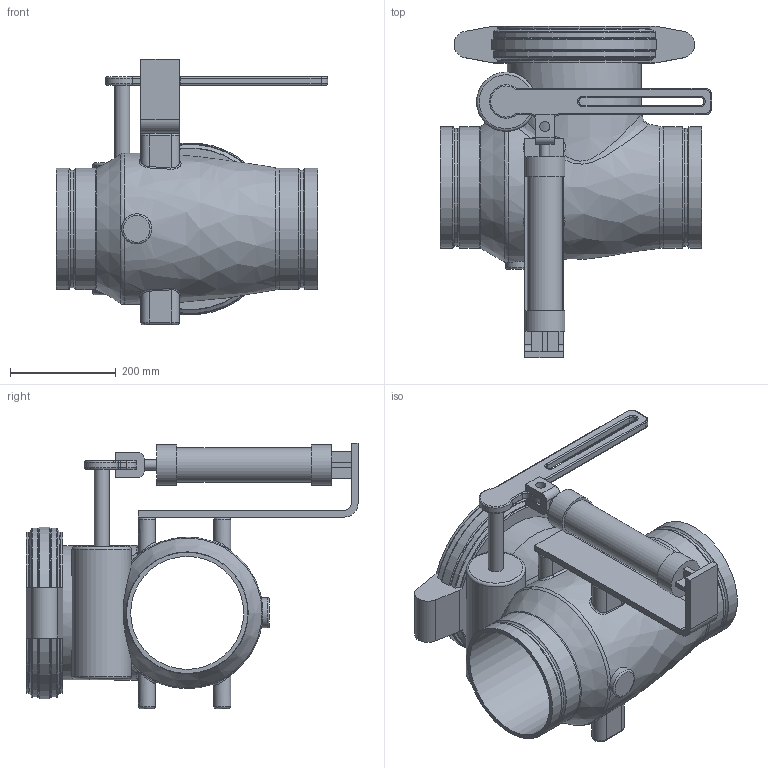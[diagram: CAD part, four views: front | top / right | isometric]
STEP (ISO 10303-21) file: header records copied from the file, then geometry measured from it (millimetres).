
FILE_DESCRIPTION(/* description */ ('VIC AWWA VALVE CHECK AIR CUSHION SERIES 317 (DRG)','CAx-IF Rec.Pracs.---Representation and Presentation of Product Manufacturing Information (PMI)---4.0---2014-10-13'),/* implementation_level */ '2;1');
FILE_NAME(/* name */ 'C:\Users\Vjadhav\Desktop\CAD for Inventor\1\317\STEP\Victaulic_AWWA_Valve Check Air Cushion_Series 317 (DRG)\Victaulic_AWWA_Valve Check Air Cushion_Series 317 (DRG)_8 (200).stp',/* time_stamp */ '2021-10-01T17:33:39+05:00',/* author */ ('jbrannon'),/* organization */ ('Victaulic'),/* preprocessor_version */ 'ST-DEVELOPER v17.2',/* originating_system */ 'Autodesk Inventor 2019',/* authorisation */ '');
FILE_SCHEMA (('AP242_MANAGED_MODEL_BASED_3D_ENGINEERING_MIM_LF { 1 0 10303 442 1 1 4 }'));
Length unit declared in the file: inch
Products named in the file (1): 317-08.0
Bounding box: 514.35 x 628.9 x 502.92 mm (x, y, z)
Volume: 24342541.9 mm3; surface area: 1357163.4 mm2
Topology: 1 solids, 1 shells, 229 faces, 596 edges, 378 vertices
Faces by surface type: cylinder 74, plane 70, torus 49, bspline 26, cone 10
Full cylindrical faces by diameter (mm): 19.05 x1, 19.177 x2, 28.575 x1, 57.15 x1, 66.04 x1, 76.2 x2, 112.268 x1, 214.122 x1, 223.037 x2, 229.87 x4, 254 x1
Entity records: 9109 total; most frequent: CARTESIAN_POINT 3203, ORIENTED_EDGE 1194, DIRECTION 1182, EDGE_CURVE 597, AXIS2_PLACEMENT_3D 476, VERTEX_POINT 378, CIRCLE 259, EDGE_LOOP 251
